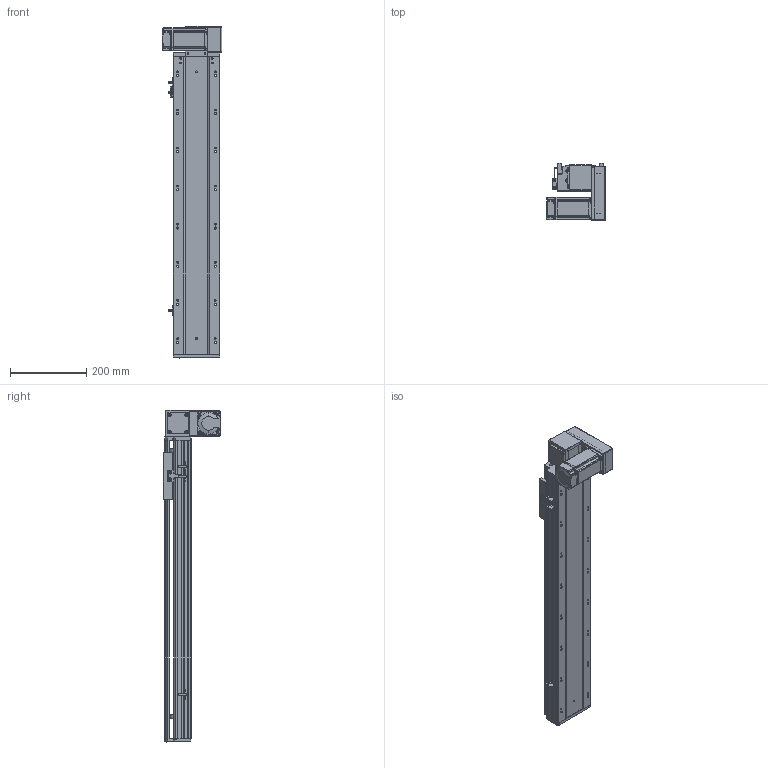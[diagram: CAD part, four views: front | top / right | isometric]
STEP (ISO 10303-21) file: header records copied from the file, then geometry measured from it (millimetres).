
FILE_DESCRIPTION (( 'STEP AP203' ), '1' );
FILE_NAME ('RY120-T-300-DR.SLDASM_550.step', '2021-03-01T03:34:57', ( '盈信电脑' ), ( '东莞市道滘镇水果街19号' ), 'SwSTEP 2.0', 'SolidWorks 2012', '' );
FILE_SCHEMA (( 'CONFIG_CONTROL_DESIGN' ));
Length unit declared in the file: millimetre
Products named in the file (17): RY120-T主同步轮轴承压盖; RY120-T萇儂欶; RY120-T-300-DR.SLDASM_550; RY120-T蹟翐M4; 滅袉蝶18-10; 15; RY120-T萇儂假蚾啣; RY120-T翋肮祭謫裔啣; RY120-T翋肮祭盓傅釱; RY120-T肮祭湍揤踡輸2; RY120外置感应片(140共用）; RY120-T肮祭湍揤踡輸1; RY120綴裔啣; RY120肮祭湍臏賑輸; 覜茼ん672; RY120-T-300-DR倰第奻裔啣_550; RY120-T-300-DR倰第菁釱_550
Assembly tree (22 placements, depth 2):
  RY120-T-300-DR.SLDASM_550
    RY120-T-300-DR倰第菁釱_550
    RY120-T-300-DR倰第奻裔啣_550
    RY120肮祭湍臏賑輸
    RY120綴裔啣
    覜茼ん672  x3
    RY120外置感应片(140共用）
    RY120-T肮祭湍揤踡輸1
    RY120-T肮祭湍揤踡輸2
    RY120-T翋肮祭盓傅釱
    滅袉蝶18-10  x2
    RY120-T翋肮祭謫裔啣
    15
    RY120-T萇儂假蚾啣
    RY120-T蹟翐M4  x4
    RY120-T萇儂欶
    RY120-T主同步轮轴承压盖
Bounding box: 155.5 x 150 x 871 mm (x, y, z)
Volume: 2627552.6 mm3; surface area: 961200.6 mm2
Topology: 23 solids, 23 shells, 2802 faces, 7664 edges, 4936 vertices
Faces by surface type: plane 1426, cylinder 1064, cone 223, bspline 89
Entity records: 89835 total; most frequent: CARTESIAN_POINT 23170, ORIENTED_EDGE 13808, DIRECTION 12958, EDGE_CURVE 6904, VERTEX_POINT 4523, AXIS2_PLACEMENT_3D 4327, VECTOR 4304, LINE 4304
